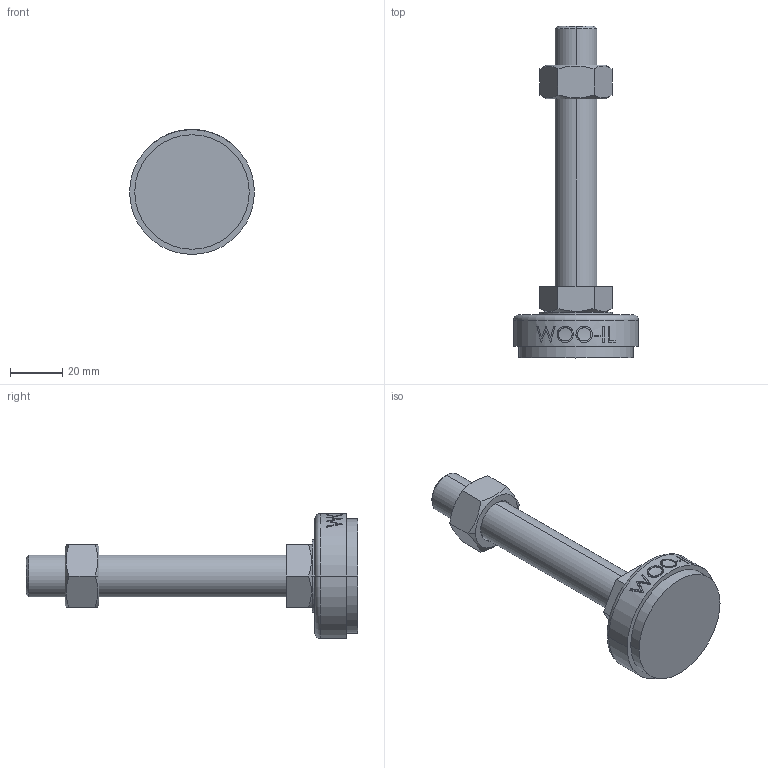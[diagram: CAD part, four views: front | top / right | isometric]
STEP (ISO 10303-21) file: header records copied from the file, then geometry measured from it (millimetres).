
FILE_DESCRIPTION (( 'STEP AP214' ), '1' );
FILE_NAME ('NS48-M16-100.step', '2021-01-11T05:43:50', ( '' ), ( '' ), 'SwSTEP 2.0', 'SolidWorks 2019', '' );
FILE_SCHEMA (( 'AUTOMOTIVE_DESIGN' ));
Length unit declared in the file: millimetre
Products named in the file (2): NS48-M16-100
Bounding box: 48 x 127.5 x 48 mm (x, y, z)
Volume: 57842.7 mm3; surface area: 15022.6 mm2
Topology: 3 solids, 3 shells, 96 faces, 223 edges, 144 vertices
Faces by surface type: plane 48, cylinder 18, bspline 16, cone 12, torus 2
Entity records: 4250 total; most frequent: CARTESIAN_POINT 2125, ORIENTED_EDGE 446, DIRECTION 381, EDGE_CURVE 223, VERTEX_POINT 144, AXIS2_PLACEMENT_3D 142, EDGE_LOOP 109, VECTOR 97
